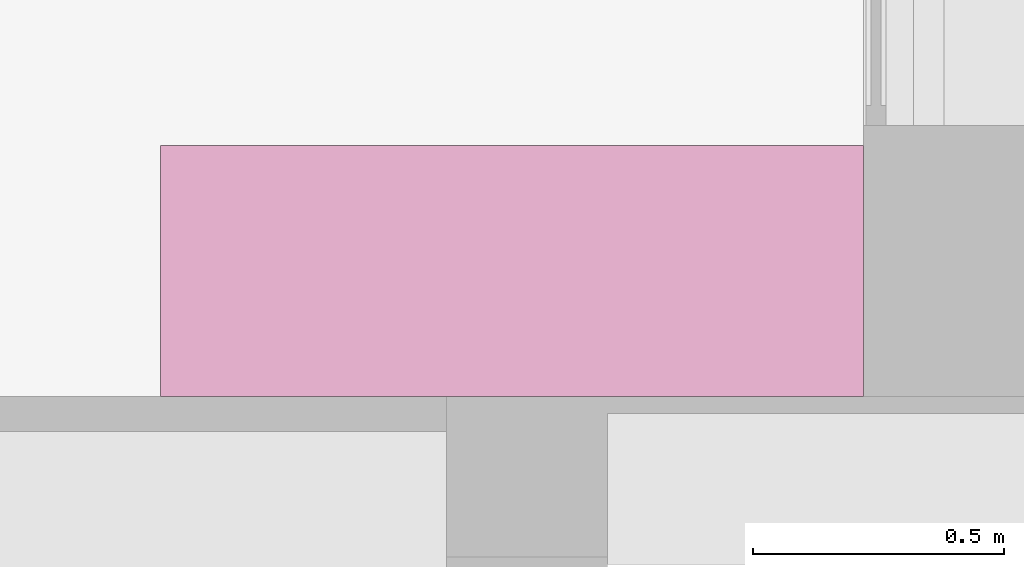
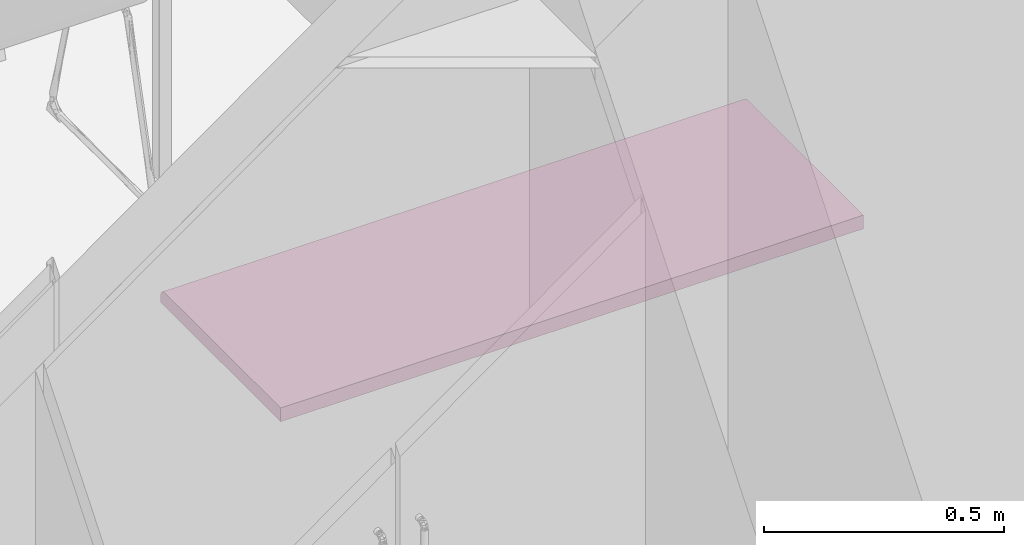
# One storey, part 122 of 137: 1 furnishing.
"""IFC2X3 building model written with IfcOpenShell, lengths in centimetres."""

import ifcopenshell
import ifcopenshell.guid

model = None  # the IFC model being written
_history = None  # IfcOwnerHistory: only IFC2X3 demands one
_inside = {}  # id of a spatial element -> (the spatial element, [elements in it])
_under = {}  # id of a project, library or spatial element -> (it, [spatial elements below it])
_declared = {}  # id of a project -> (the project, [libraries it declares])
_typed = {}  # id of a type object -> (the type object, [elements of that type])
_made_of = {}  # id of a material, layer set ... -> (it, [elements and type objects made of it])


def new_model(schema):
    """Start an empty IFC model of exactly this schema.

    Asked for "IFC4X3", IfcOpenShell would pick the latest addendum, in which some entities
    have other attributes; the version numbers below select the first issue.
    IFC2X3 requires an IfcOwnerHistory on every rooted entity: one is made here for all.
    """
    global model, _history
    if schema == "IFC4X3":
        model = ifcopenshell.file(schema_version=(4, 3, 0, 0))
    else:
        model = ifcopenshell.file(schema=schema)
    _inside.clear()
    _under.clear()
    _declared.clear()
    _typed.clear()
    _made_of.clear()
    _history = None
    if model.schema == "IFC2X3":
        org = make("IfcOrganization", Name="unknown")
        user = make(
            "IfcPersonAndOrganization",
            ThePerson=make("IfcPerson", FamilyName="unknown"),
            TheOrganization=org,
        )
        app = make(
            "IfcApplication",
            ApplicationDeveloper=org,
            Version="unknown",
            ApplicationFullName="unknown",
            ApplicationIdentifier="unknown",
        )
        _history = make(
            "IfcOwnerHistory",
            OwningUser=user,
            OwningApplication=app,
            ChangeAction="ADDED",
            CreationDate=0,
        )
    return model


def make(cls, **values):
    """One entity of the class cls with the attributes given. An attribute that is None is left unset."""
    return model.create_entity(
        cls, **{name: value for name, value in values.items() if value is not None}
    )


def entity(cls, *values):
    """Any entity or typed value of the class cls, its attributes in the order of the schema. None: left unset."""
    e = model.create_entity(cls)
    for i, value in enumerate(values):
        if value is not None:
            e[i] = value
    return e


def rooted(cls, **values):
    """An entity with a GlobalId (a new one), such as an element, a storey or a relation."""
    return make(cls, GlobalId=ifcopenshell.guid.new(), OwnerHistory=_history, **values)


def si_unit(unit_type, name, prefix=None):
    """IfcSIUnit, for example si_unit("LENGTHUNIT", "METRE", prefix="MILLI")."""
    return make("IfcSIUnit", UnitType=unit_type, Prefix=prefix, Name=name)


def converted_unit(unit_type, name, factor, base, dimensions=None, offset=None):
    """IfcConversionBasedUnit, such as the inch: factor (a typed value) times the base unit."""
    return make(
        "IfcConversionBasedUnit"
        if offset is None
        else "IfcConversionBasedUnitWithOffset",
        ConversionOffset=offset,
        Dimensions=None
        if dimensions is None
        else entity("IfcDimensionalExponents", *dimensions),
        UnitType=unit_type,
        Name=name,
        ConversionFactor=make(
            "IfcMeasureWithUnit", ValueComponent=factor, UnitComponent=base
        ),
    )


def derived_unit(unit_type, elements):
    """IfcDerivedUnit: a product of units, each with its exponent."""
    return make(
        "IfcDerivedUnit",
        Elements=[
            make("IfcDerivedUnitElement", Unit=unit, Exponent=power)
            for unit, power in elements
        ],
        UnitType=unit_type,
    )


def assignment(units):
    """IfcUnitAssignment: the units of a project."""
    return None if units is None else make("IfcUnitAssignment", Units=units)


def point(xyz):
    """IfcCartesianPoint."""
    return None if xyz is None else make("IfcCartesianPoint", Coordinates=xyz)


def direction(xyz):
    """IfcDirection."""
    return None if xyz is None else make("IfcDirection", DirectionRatios=xyz)


def frame(location, z_axis=None, x_axis=None):
    """IfcAxis2Placement3D, a coordinate frame: its origin and axes. An axis left out is left unset."""
    return make(
        "IfcAxis2Placement3D",
        Location=point(location),
        Axis=direction(z_axis),
        RefDirection=direction(x_axis),
    )


def frame_2d(location, x_axis=None):
    """IfcAxis2Placement2D, a coordinate frame in the plane: its origin and x axis."""
    return make(
        "IfcAxis2Placement2D", Location=point(location), RefDirection=direction(x_axis)
    )


def origin():
    """The frame at (0, 0, 0) with its axes left unset."""
    return frame((0.0, 0.0, 0.0))


def place(relative_to, where):
    """IfcLocalPlacement: puts the frame where relative to a parent placement (None: the world)."""
    return make(
        "IfcLocalPlacement", PlacementRelTo=relative_to, RelativePlacement=where
    )


def context(
    kind, dimensions, precision=None, world=None, true_north=None, identifier=None
):
    """IfcGeometricRepresentationContext, for example the 3D "Model" context."""
    return make(
        "IfcGeometricRepresentationContext",
        ContextIdentifier=identifier,
        ContextType=kind,
        CoordinateSpaceDimension=dimensions,
        Precision=precision,
        WorldCoordinateSystem=world,
        TrueNorth=true_north,
    )


def subcontext(parent, identifier, kind, view, scale=None):
    """IfcGeometricRepresentationSubContext, for example "Body" below "Model"."""
    return make(
        "IfcGeometricRepresentationSubContext",
        ContextIdentifier=identifier,
        ContextType=kind,
        ParentContext=parent,
        TargetScale=scale,
        TargetView=view,
    )


def project(units=None, contexts=None):
    """IfcProject with its units and contexts."""
    return rooted(
        "IfcProject",
        Name="project",
        RepresentationContexts=contexts,
        UnitsInContext=assignment(units),
    )


def spatial(cls, under=None, at=None, **own):
    """A site, building, storey or space (cls), placed at a placement, below another one or the project."""
    s = rooted(cls, ObjectPlacement=at, **own)
    if under is not None:
        _under.setdefault(under.id(), (under, []))[1].append(s)
    return s


def polyline(points):
    """IfcPolyline through the points."""
    return make("IfcPolyline", Points=[point(p) for p in points])


def circle_curve(where, radius):
    """IfcCircle in the frame where."""
    return make("IfcCircle", Position=where, Radius=radius)


def parameter(value):
    """IfcParameterValue: where a trimmed curve begins or ends, as a parameter of its basis curve."""
    return model.create_entity("IfcParameterValue", value)


def trimmed(basis, trim1, trim2, sense, master):
    """IfcTrimmedCurve: the piece of a basis curve between two trims."""
    return make(
        "IfcTrimmedCurve",
        BasisCurve=basis,
        Trim1=trim1,
        Trim2=trim2,
        SenseAgreement=sense,
        MasterRepresentation=master,
    )


def segment(curve, same_sense, transition):
    """IfcCompositeCurveSegment."""
    return make(
        "IfcCompositeCurveSegment",
        Transition=transition,
        SameSense=same_sense,
        ParentCurve=curve,
    )


def composite_curve(segments, self_intersect=None):
    """IfcCompositeCurve: segments joined end to end."""
    return make("IfcCompositeCurve", Segments=segments, SelfIntersect=self_intersect)


def outline(outer, holes=None, kind="AREA"):
    """IfcArbitraryClosedProfileDef: a profile drawn as a closed curve; with holes, ...WithVoids."""
    if holes is None:
        return make("IfcArbitraryClosedProfileDef", ProfileType=kind, OuterCurve=outer)
    return make(
        "IfcArbitraryProfileDefWithVoids",
        ProfileType=kind,
        OuterCurve=outer,
        InnerCurves=holes,
    )


def extrude(swept, where, along, depth):
    """IfcExtrudedAreaSolid: the profile swept, set in the frame where, extruded along a direction by depth."""
    return make(
        "IfcExtrudedAreaSolid",
        SweptArea=swept,
        Position=where,
        ExtrudedDirection=direction(along),
        Depth=depth,
    )


def shape(context_of_items, identifier, shape_type, items):
    """IfcShapeRepresentation: the items that make up one representation, for example the "Body"."""
    return make(
        "IfcShapeRepresentation",
        ContextOfItems=context_of_items,
        RepresentationIdentifier=identifier,
        RepresentationType=shape_type,
        Items=items,
    )


def source(mapping_origin, context_of_items, identifier, shape_type, items):
    """IfcRepresentationMap: a shape defined once, which mapped items show again and again."""
    return make(
        "IfcRepresentationMap",
        MappingOrigin=mapping_origin,
        MappedRepresentation=shape(context_of_items, identifier, shape_type, items),
    )


def transform(
    local_origin,
    x_axis=None,
    y_axis=None,
    z_axis=None,
    scale=None,
    scale2=None,
    scale3=None,
    uniform=True,
):
    """IfcCartesianTransformationOperator3D, or its non-uniform kind. x_axis, y_axis, z_axis: its Axis1, 2, 3."""
    if uniform:
        return make(
            "IfcCartesianTransformationOperator3D",
            Axis1=direction(x_axis),
            Axis2=direction(y_axis),
            LocalOrigin=point(local_origin),
            Scale=scale,
            Axis3=direction(z_axis),
        )
    return make(
        "IfcCartesianTransformationOperator3DnonUniform",
        Axis1=direction(x_axis),
        Axis2=direction(y_axis),
        LocalOrigin=point(local_origin),
        Scale=scale,
        Axis3=direction(z_axis),
        Scale2=scale2,
        Scale3=scale3,
    )


def mapped(mapping_source, mapping_target):
    """IfcMappedItem: shows the shape of a source again, moved by a transform."""
    return make(
        "IfcMappedItem", MappingSource=mapping_source, MappingTarget=mapping_target
    )


def material(Name=None, Category=None):
    """IfcMaterial."""
    return make("IfcMaterial", Name=Name, Category=Category)


def made_of(thing, what):
    """Note that an element or type object is made of a material, layer set ...; save() writes the relation."""
    if what is not None:
        _made_of.setdefault(what.id(), (what, []))[1].append(thing)
    return thing


def type_object(cls, material=None, **own):
    """A type object (cls), such as IfcWallType, which elements share."""
    return made_of(rooted(cls, **own), material)


def type_shapes(of_type, sources):
    """Give a type object the sources (RepresentationMaps) that its elements show as mapped items."""
    of_type.RepresentationMaps = sources


def element(
    cls,
    number,
    at=None,
    inside=None,
    cuts=None,
    type_object=None,
    material=None,
    context=None,
    identifier="Body",
    shape_type=None,
    held_by="IfcProductDefinitionShape",
    body=None,
    shapes=None,
    **own,
):
    """One element of the class cls, such as IfcWall. Its Tag is "e" and its number.

    at: its placement. inside: the storey or other place that contains it. cuts: it is an
    opening in that element (IfcRelVoidsElement). A single representation is given by context,
    identifier, shape_type and body (its items); several are given by shapes. held_by: the class
    of the entity that holds the representations. save() writes the other relations.
    """
    e = rooted(cls, Tag="e%d" % number, ObjectPlacement=at, **own)
    if body is not None:
        shapes = [shape(context, identifier, shape_type, body)]
    if shapes is not None:
        e.Representation = make(held_by, Representations=shapes)
    if inside is not None:
        _inside.setdefault(inside.id(), (inside, []))[1].append(e)
    if cuts is not None:
        rooted(
            "IfcRelVoidsElement", RelatingBuildingElement=cuts, RelatedOpeningElement=e
        )
    if type_object is not None:
        _typed.setdefault(type_object.id(), (type_object, []))[1].append(e)
    return made_of(e, material)


def aggregate(whole, parts):
    """IfcRelAggregates: a whole, such as a stair, and the parts it consists of."""
    return rooted("IfcRelAggregates", RelatingObject=whole, RelatedObjects=parts)


def save(model, path):
    """Write the relations noted so far, then the file.

    IfcRelAggregates (storeys below a building ...), IfcRelContainedInSpatialStructure (elements
    in a storey), IfcRelDefinesByType, IfcRelAssociatesMaterial and IfcRelDeclares: one each for
    every whole, place, type object, material and project.
    """
    for whole, parts in _under.values():
        aggregate(whole, parts)
    for where, things in _inside.values():
        rooted(
            "IfcRelContainedInSpatialStructure",
            RelatedElements=things,
            RelatingStructure=where,
        )
    for kind, things in _typed.values():
        rooted("IfcRelDefinesByType", RelatedObjects=things, RelatingType=kind)
    for what, things in _made_of.values():
        rooted("IfcRelAssociatesMaterial", RelatedObjects=things, RelatingMaterial=what)
    for by, libraries in _declared.values():
        rooted("IfcRelDeclares", RelatingContext=by, RelatedDefinitions=libraries)
    model.write(path)


model = new_model("IFC2X3")

# Units and contexts
model_context = context("Model", 3, precision=0.001, world=origin(), true_north=direction((6.12303176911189e-17, 1.0)))
body_context = subcontext(model_context, "Body", "Model", "MODEL_VIEW")
ifc_project = project(units=[si_unit("LENGTHUNIT", "METRE", prefix="CENTI"), si_unit("AREAUNIT", "SQUARE_METRE"), si_unit("VOLUMEUNIT", "CUBIC_METRE"), converted_unit("PLANEANGLEUNIT", "DEGREE", entity("IfcRatioMeasure", 0.0174532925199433), si_unit("PLANEANGLEUNIT", "RADIAN"), dimensions=[0, 0, 0, 0, 0, 0, 0]), si_unit("MASSUNIT", "GRAM", prefix="KILO"), si_unit("TIMEUNIT", "SECOND"), si_unit("FREQUENCYUNIT", "HERTZ"), si_unit("THERMODYNAMICTEMPERATUREUNIT", "DEGREE_CELSIUS"), derived_unit("THERMALTRANSMITTANCEUNIT", [(si_unit("MASSUNIT", "GRAM", prefix="KILO"), 1), (si_unit("THERMODYNAMICTEMPERATUREUNIT", "KELVIN"), -1), (si_unit("TIMEUNIT", "SECOND"), -3)]), derived_unit("VOLUMETRICFLOWRATEUNIT", [(si_unit("LENGTHUNIT", "METRE"), 3), (si_unit("TIMEUNIT", "SECOND"), -1)]), si_unit("ELECTRICCURRENTUNIT", "AMPERE"), si_unit("ELECTRICVOLTAGEUNIT", "VOLT"), si_unit("POWERUNIT", "WATT"), si_unit("FORCEUNIT", "NEWTON", prefix="KILO"), si_unit("ILLUMINANCEUNIT", "LUX"), si_unit("LUMINOUSFLUXUNIT", "LUMEN"), si_unit("LUMINOUSINTENSITYUNIT", "CANDELA"), derived_unit("USERDEFINED", [(si_unit("MASSUNIT", "GRAM", prefix="KILO"), -1), (si_unit("LENGTHUNIT", "METRE"), -2), (si_unit("TIMEUNIT", "SECOND"), 3), (si_unit("LUMINOUSFLUXUNIT", "LUMEN"), 1)]), derived_unit("LINEARVELOCITYUNIT", [(si_unit("LENGTHUNIT", "METRE"), 1), (si_unit("TIMEUNIT", "SECOND"), -1)]), si_unit("PRESSUREUNIT", "PASCAL"), derived_unit("USERDEFINED", [(si_unit("LENGTHUNIT", "METRE"), -2), (si_unit("MASSUNIT", "GRAM", prefix="KILO"), 1), (si_unit("TIMEUNIT", "SECOND"), -2)])], contexts=[model_context])

# Site, building, storey, space
site_placement = place(None, frame((8.62739174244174, -249.285249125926, 0.0)))
site = spatial("IfcSite", under=ifc_project, at=site_placement, Name="Default", CompositionType="ELEMENT")
building_placement = place(site_placement, origin())
building = spatial("IfcBuilding", under=site, at=building_placement, CompositionType="ELEMENT")
storey_placement = place(building_placement, origin())
storey = spatial("IfcBuildingStorey", under=building, at=storey_placement, Name="RDC", CompositionType="ELEMENT", Elevation=-8.82465566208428e-11)
space_placement = place(storey_placement, origin())
space = spatial("IfcSpace", under=storey, at=space_placement, Name="025", CompositionType="ELEMENT", InteriorOrExteriorSpace="INTERNAL")

# Furnishing
ifc_material = material(Name="Bois - Mélaminé jaune pastel")
furniture_type = type_object("IfcFurnitureType", Name="Sans réservation pour évier", AssemblyPlace="NOTDEFINED", material=ifc_material)
shared_shape = source(origin(), body_context, "Body", "SweptSolid", [
    extrude(outline(composite_curve([segment(polyline([(-1.91284418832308, -14.8411140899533), (-0.772934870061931, -14.8411140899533)]), True, "CONTINUOUS"), segment(polyline([(-0.772934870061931, -14.8411140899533), (-0.162844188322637, -14.8411140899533)]), True, "CONTINUOUS"), segment(trimmed(circle_curve(frame_2d((-0.162844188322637, -13.0911140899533), x_axis=(0.0, -1.0)), 1.75), [parameter(4.57999874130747e-13)], [parameter(90.0000000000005)], True, "PARAMETER"), True, "CONTINUOUS"), segment(polyline([(1.58715581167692, -13.0911140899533), (1.58715581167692, -12.7033154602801)]), True, "CONTINUOUS"), segment(polyline([(1.58715581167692, -12.7033154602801), (1.58715581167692, 35.1588859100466)]), True, "CONTINUOUS"), segment(polyline([(1.58715581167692, 35.1588859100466), (-1.91284418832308, 35.1588859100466)]), True, "CONTINUOUS"), segment(polyline([(-1.91284418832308, 35.1588859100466), (-1.91284418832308, -14.8411140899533)]), True, "CONTINUOUS")], self_intersect=False)), frame((-57.5000000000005, 38.6588859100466, 89.1128441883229), z_axis=(1.0, 0.0, 0.0), x_axis=(0.0, 0.0, 1.0)), (0.0, 0.0, 1.0), 140.0),
])
type_shapes(furniture_type, [shared_shape])
furnishing_placement = place(space_placement, frame((3884.40482781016, 802.480208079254, 0.0)))
element("IfcFurnishingElement", 1, at=furnishing_placement, inside=space, type_object=furniture_type, material=ifc_material, Name="PTD:Sans réservation pour évier", ObjectType="Sans réservation pour évier", context=body_context, shape_type="MappedRepresentation", body=[
    mapped(shared_shape, transform((0.0, 0.0, 0.0), scale=1.0)),
])

save(model, "model.ifc")
